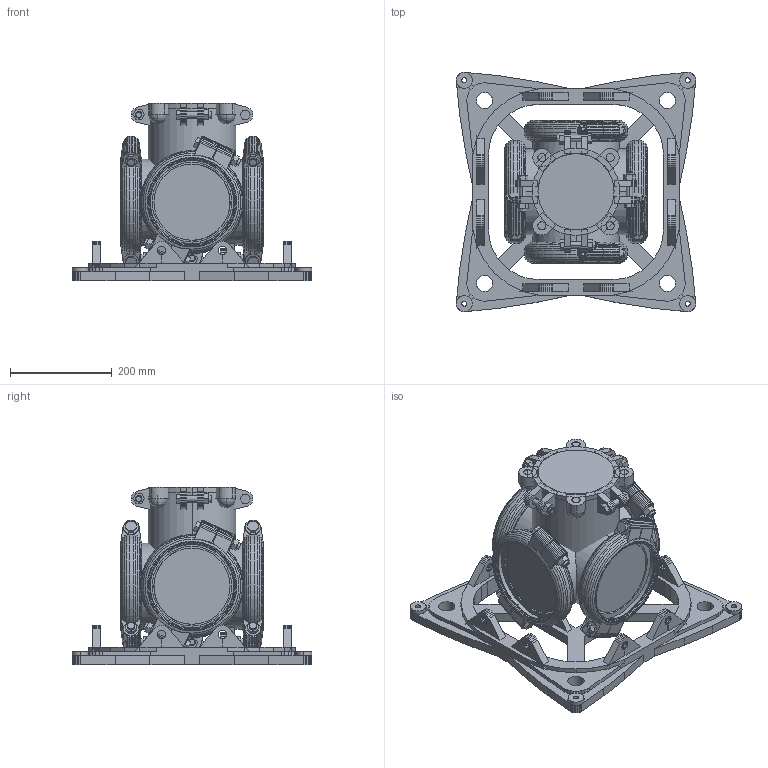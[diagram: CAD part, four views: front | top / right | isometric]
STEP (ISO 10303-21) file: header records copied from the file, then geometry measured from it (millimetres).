
FILE_DESCRIPTION(('CATIA V5 STEP Exchange','CAx-IF Rec.Pracs.--- Model Styling and Organization---1.2---2011-12-15'),'2;1');
FILE_NAME('S:\USER\CAT6\3DPlanerdaten_ab_2012\_pit-cup_ab_03-10-2016\4420\4420E2_DN150.stp','2018-03-29T11:22:22+00:00',('none'),('none'),'CATIA Version 5 Release 21 SP 5 (IN-10)','CATIA V5 STEP AP214 Edition 3','none');
FILE_SCHEMA(('AUTOMOTIVE_DESIGN { 1 0 10303 214 3 1 1 1 }'));
Products named in the file (1): 4420E2_DN150
Bounding box: 471.6 x 471.6 x 350.1 mm (x, y, z)
Volume: 16532858.6 mm3; surface area: 1510981.8 mm2
Topology: 32 solids, 36 shells, 2896 faces, 7935 edges, 5159 vertices
Faces by surface type: plane 2240, cone 408, cylinder 232, sphere 16
Entity records: 94685 total; most frequent: CARTESIAN_POINT 19375, ORIENTED_EDGE 15822, DIRECTION 13217, EDGE_CURVE 7911, VECTOR 6547, LINE 6547, VERTEX_POINT 5159, AXIS2_PLACEMENT_3D 3783
